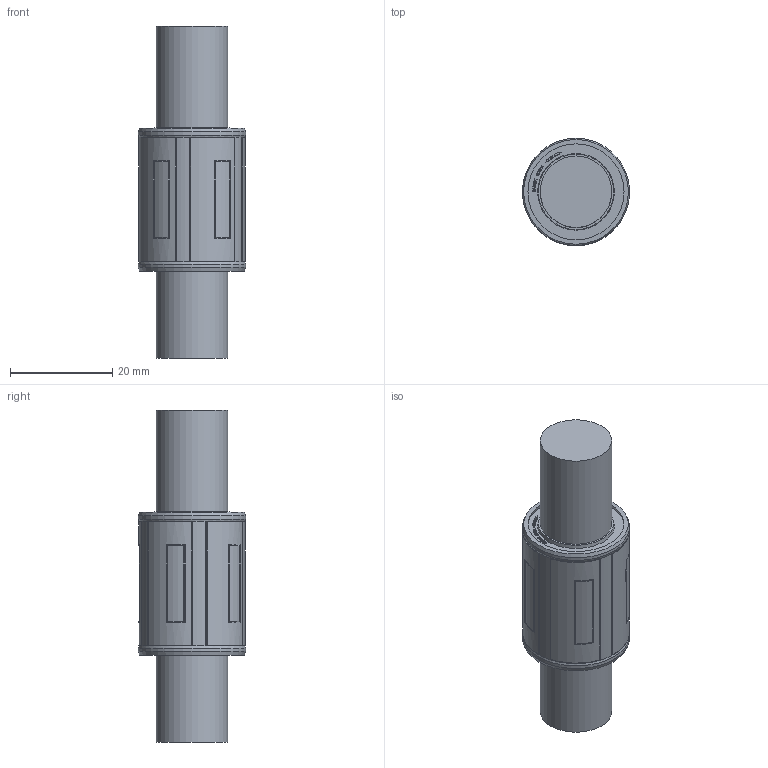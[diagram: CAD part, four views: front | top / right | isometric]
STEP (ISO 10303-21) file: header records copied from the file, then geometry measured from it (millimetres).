
FILE_DESCRIPTION(/* description */ (''),/* implementation_level */ '2;1');
FILE_NAME(/* name */ 'C:\Users\조경제\OneDrive - mysamick.com\바탕 화면\STP\STP_rev1\CLB14UU.stp',/* time_stamp */ '2025-02-05T13:45:39+09:00',/* author */ ('조경제'),/* organization */ (''),/* preprocessor_version */ 'ST-DEVELOPER v17',/* originating_system */ 'Autodesk Inventor 2019',/* authorisation */ '');
FILE_SCHEMA (('AUTOMOTIVE_DESIGN { 1 0 10303 214 3 1 1 }'));
Length unit declared in the file: millimetre
Products named in the file (1): CLB14UU
Bounding box: 21 x 21 x 65 mm (x, y, z)
Volume: 15057 mm3; surface area: 4520.9 mm2
Topology: 1 solids, 1 shells, 1065 faces, 2928 edges, 1942 vertices
Faces by surface type: bspline 668, plane 334, cylinder 43, torus 12, cone 8
Full cylindrical faces by diameter (mm): 14 x2, 19 x2, 19.1 x2, 21 x2
Entity records: 37032 total; most frequent: CARTESIAN_POINT 13282, ORIENTED_EDGE 5856, EDGE_CURVE 2928, DIRECTION 2576, VERTEX_POINT 1942, LINE 1404, VECTOR 1404, B_SPLINE_CURVE_WITH_KNOTS 1336
